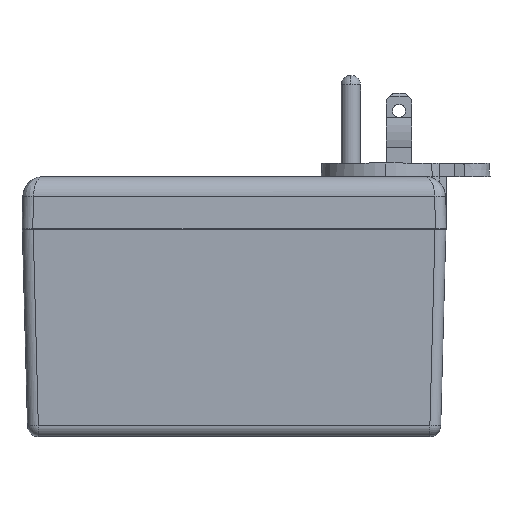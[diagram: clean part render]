
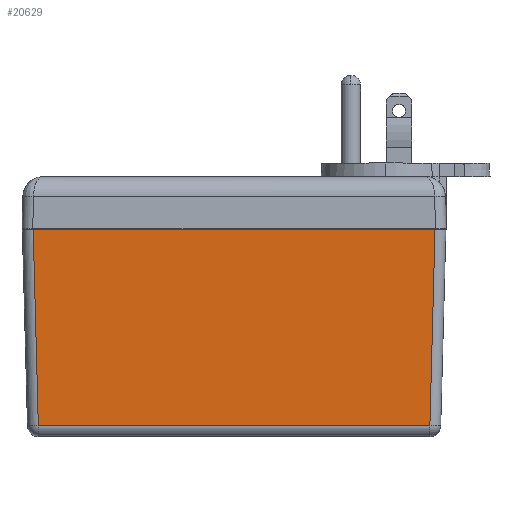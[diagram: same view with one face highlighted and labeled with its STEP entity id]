
A CAD part, top view. The second image highlights one B-rep face of the part: STEP entity #20629.
In plain terms, the highlighted planar face has unit normal (0, -0.026, 1).
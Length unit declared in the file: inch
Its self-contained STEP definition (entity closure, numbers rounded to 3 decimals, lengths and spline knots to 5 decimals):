
#88 = ORIENTED_EDGE ( 'NONE', *, *, #12255, .T. ) ;
#89 = ORIENTED_EDGE ( 'NONE', *, *, #12254, .F. ) ;
#90 = ORIENTED_EDGE ( 'NONE', *, *, #12256, .T. ) ;
#91 = ORIENTED_EDGE ( 'NONE', *, *, #12270, .T. ) ;
#406 = DIRECTION ( 'NONE',  ( 0., -0.026, 1. ) ) ;
#434 = DIRECTION ( 'NONE',  ( 0., -1., -0.026 ) ) ;
#452 = PLANE ( 'NONE',  #19021 ) ;
#453 = CARTESIAN_POINT ( 'NONE',  ( -2.0545, 0., 1.116 ) ) ;
#1327 = FACE_OUTER_BOUND ( 'NONE', #18586, .T. ) ;
#5925 = DIRECTION ( 'NONE',  ( 1., 0., 0. ) ) ;
#5938 = CARTESIAN_POINT ( 'NONE',  ( -2.0545, -1.90275, 1.06617 ) ) ;
#5960 = DIRECTION ( 'NONE',  ( 0.026, 0.999, 0.026 ) ) ;
#5962 = DIRECTION ( 'NONE',  ( 0.026, -0.999, -0.026 ) ) ;
#5963 = CARTESIAN_POINT ( 'NONE',  ( -1.94961, 0.00274, 1.11607 ) ) ;
#5964 = DIRECTION ( 'NONE',  ( 1., 0., 0. ) ) ;
#5965 = CARTESIAN_POINT ( 'NONE',  ( 1.94679, -0.10471, 1.11326 ) ) ;
#5972 = CARTESIAN_POINT ( 'NONE',  ( -2.0545, 0., 1.116 ) ) ;
#8395 = VERTEX_POINT ( 'NONE', #16031 ) ;
#11664 = LINE ( 'NONE', #5938, #11680 ) ;
#11680 = VECTOR ( 'NONE', #5925, 39.37008 ) ;
#11695 = VECTOR ( 'NONE', #5960, 39.37008 ) ;
#11696 = VECTOR ( 'NONE', #5962, 39.37008 ) ;
#11700 = LINE ( 'NONE', #5963, #11696 ) ;
#11703 = VECTOR ( 'NONE', #5964, 39.37008 ) ;
#11705 = LINE ( 'NONE', #5972, #11703 ) ;
#11717 = LINE ( 'NONE', #5965, #11695 ) ;
#12254 = EDGE_CURVE ( 'NONE', #18966, #18906, #11705, .T. ) ;
#12255 = EDGE_CURVE ( 'NONE', #18966, #18990, #11700, .T. ) ;
#12256 = EDGE_CURVE ( 'NONE', #8395, #18906, #11717, .T. ) ;
#12270 = EDGE_CURVE ( 'NONE', #18990, #8395, #11664, .T. ) ;
#16031 = CARTESIAN_POINT ( 'NONE',  ( 1.89971, -1.90275, 1.06617 ) ) ;
#16912 = CARTESIAN_POINT ( 'NONE',  ( -1.89971, -1.90275, 1.06617 ) ) ;
#16935 = CARTESIAN_POINT ( 'NONE',  ( -1.94954, 0., 1.116 ) ) ;
#17018 = CARTESIAN_POINT ( 'NONE',  ( 1.94954, 0., 1.116 ) ) ;
#18586 = EDGE_LOOP ( 'NONE', ( #91, #90, #89, #88 ) ) ;
#18906 = VERTEX_POINT ( 'NONE', #17018 ) ;
#18966 = VERTEX_POINT ( 'NONE', #16935 ) ;
#18990 = VERTEX_POINT ( 'NONE', #16912 ) ;
#19021 = AXIS2_PLACEMENT_3D ( 'NONE', #453, #406, #434 ) ;
#20629 = ADVANCED_FACE ( 'NONE', ( #1327 ), #452, .T. ) ;
